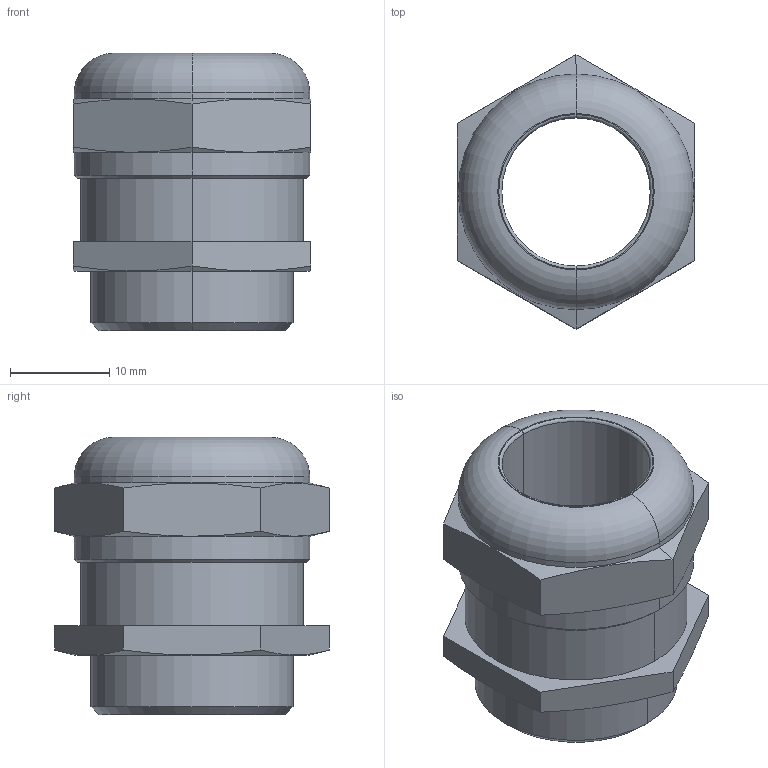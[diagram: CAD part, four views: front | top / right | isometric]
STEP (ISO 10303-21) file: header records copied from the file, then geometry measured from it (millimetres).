
FILE_DESCRIPTION (( 'STEP AP203' ), '1' );
FILE_NAME ('101306.STEP', '2006-10-05T06:22:48', ( ' ' ), ( '' ), 'SwSTEP 2.0', 'SolidWorks 2005278', '' );
FILE_SCHEMA (( 'CONFIG_CONTROL_DESIGN' ));
Length unit declared in the file: millimetre
Products named in the file (1): 101306
Bounding box: 24 x 27.71 x 28 mm (x, y, z)
Volume: 6664.1 mm3; surface area: 4013.5 mm2
Topology: 1 solids, 1 shells, 78 faces, 192 edges, 122 vertices
Faces by surface type: plane 54, cone 10, cylinder 10, torus 4
Entity records: 2461 total; most frequent: CARTESIAN_POINT 543, ORIENTED_EDGE 384, DIRECTION 366, EDGE_CURVE 192, LINE 140, VECTOR 140, VERTEX_POINT 122, AXIS2_PLACEMENT_3D 113
